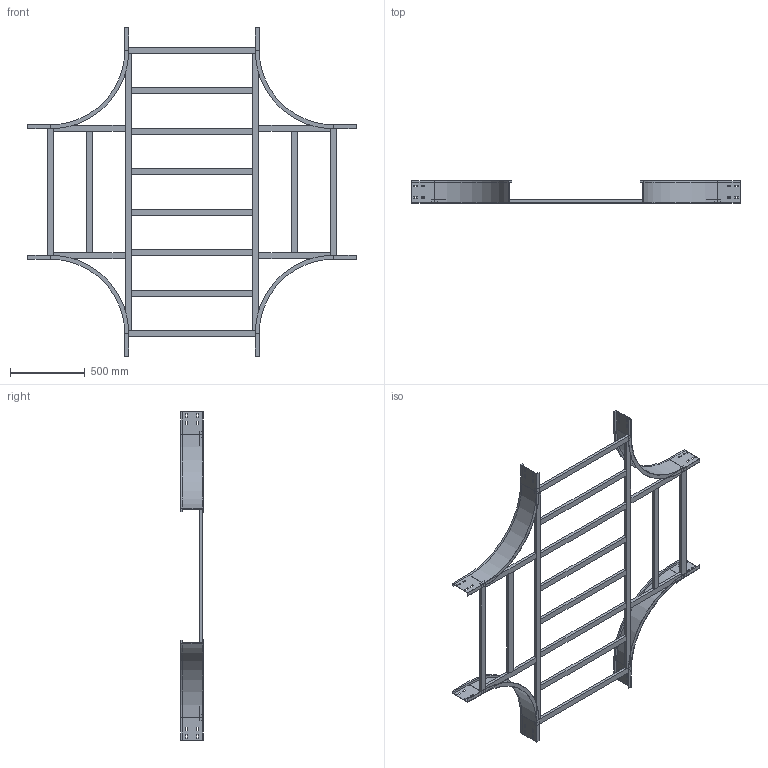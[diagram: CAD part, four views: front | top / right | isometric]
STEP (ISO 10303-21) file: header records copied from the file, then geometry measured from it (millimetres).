
FILE_DESCRIPTION (( 'STEP AP214' ), '1' );
FILE_NAME ('17J5F900.step', '2025-02-21T16:29:02', ( '' ), ( '' ), 'SwSTEP 2.0', 'SolidWorks 2023', '' );
FILE_SCHEMA (( 'AUTOMOTIVE_DESIGN' ));
Length unit declared in the file: millimetre
Products named in the file (7): TRAVERSINO_COPPIA_900; 17J5F900; TRAVERSINO_900; TRAVERSINO_LONG._R500+900; TRAVERSINO_VERT_R500; LONGH.INTERNO 90°_H150_R500; TRAVERSINO_INTERMEDIO_X_R500+900
Assembly tree (22 placements, depth 2):
  17J5F900
    LONGH.INTERNO 90°_H150_R500  x4
    TRAVERSINO_900  x4
    TRAVERSINO_LONG._R500+900  x2
    TRAVERSINO_INTERMEDIO_X_R500+900  x6
    TRAVERSINO_VERT_R500  x4
    TRAVERSINO_COPPIA_900  x2
Bounding box: 2200 x 150 x 2200 mm (x, y, z)
Volume: 15114747.2 mm3; surface area: 3615049.3 mm2
Topology: 22 solids, 22 shells, 340 faces, 824 edges, 528 vertices
Faces by surface type: plane 324, cylinder 16
Entity records: 2876 total; most frequent: CARTESIAN_POINT 461, DIRECTION 446, ORIENTED_EDGE 424, EDGE_CURVE 212, VECTOR 204, LINE 204, VERTEX_POINT 136, AXIS2_PLACEMENT_3D 121
